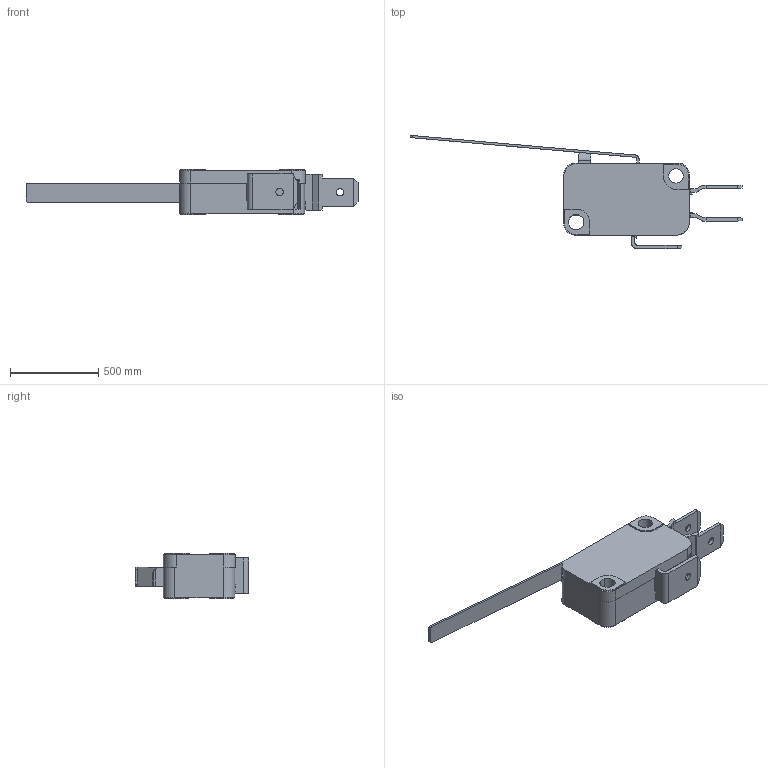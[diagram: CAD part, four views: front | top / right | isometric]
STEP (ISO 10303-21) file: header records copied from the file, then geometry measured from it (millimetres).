
FILE_DESCRIPTION((''),'2;1');
FILE_NAME('ASM0003_ASM','2016-06-02T',('Administrator'),(''),'PRO/ENGINEER BY PARAMETRIC TECHNOLOGY CORPORATION, 2012360','PRO/ENGINEER BY PARAMETRIC TECHNOLOGY CORPORATION, 2012360','');
FILE_SCHEMA(('CONFIG_CONTROL_DESIGN'));
Length unit declared in the file: inch
Products named in the file (1): ASM0003_ASM
Bounding box: 1877.73 x 640.92 x 259.08 mm (x, y, z)
Volume: 63305922.1 mm3; surface area: 2903302 mm2
Topology: 1 solids, 6 shells, 498 faces, 1399 edges, 912 vertices
Faces by surface type: plane 395, cylinder 96, torus 4, cone 3
Entity records: 16027 total; most frequent: CARTESIAN_POINT 2997, ORIENTED_EDGE 2798, DIRECTION 2561, EDGE_CURVE 1399, VECTOR 1153, LINE 1153, VERTEX_POINT 912, AXIS2_PLACEMENT_3D 704
